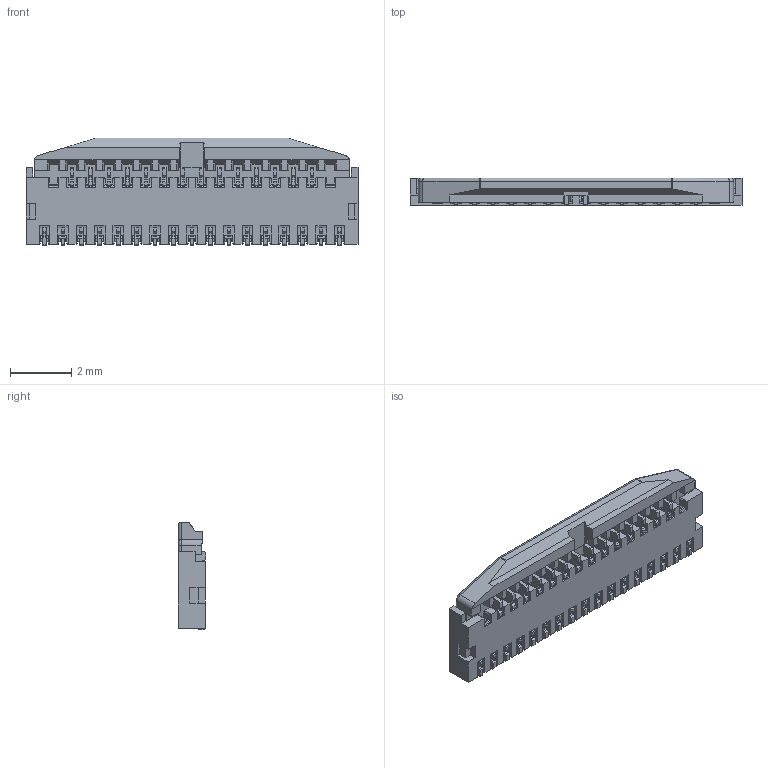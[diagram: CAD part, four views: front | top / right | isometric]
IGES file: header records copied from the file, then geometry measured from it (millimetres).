
Start section: SolidWorks IGES file using analytic representation for surfaces
Global section: file name: C:\3dworks\takei\MINIFLEX3-BFN 3Dƒ‚ƒfƒ‹_150220\20584-029ExC ASS'Y ACT CLOSE IGES R3 ALL.IGS; native system: SolidWorks 2012; preprocessor: SolidWorks 2012; author: ieng2-004; date: 150220.165549; units: millimetre
Bounding box: 10.8 x 0.9 x 3.5 mm (x, y, z)
Surface area: 145.8 mm2 (no closed solid volume)
Topology: 0 solids, 0 shells, 2779 faces, 17590 edges, 17586 vertices
Faces by surface type: bspline 2388, revolution 391
